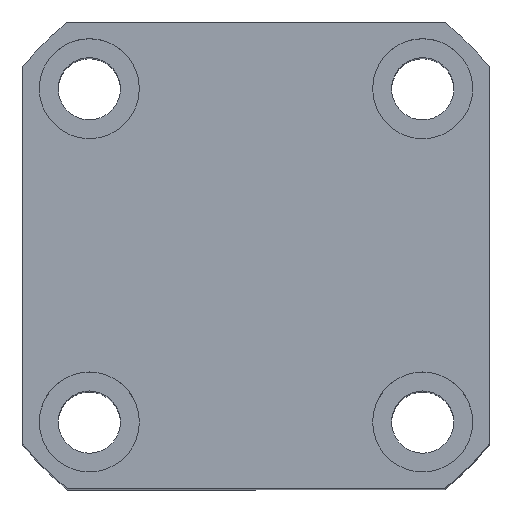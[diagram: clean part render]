
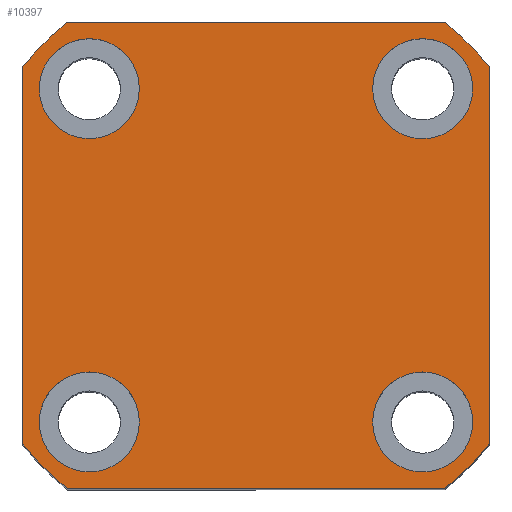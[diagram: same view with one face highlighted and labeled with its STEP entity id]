
A CAD part, top view. The second image highlights one B-rep face of the part: STEP entity #10397.
In plain terms, the highlighted planar face has unit normal (0, 0, 1).
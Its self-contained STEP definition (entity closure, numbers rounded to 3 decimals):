
#90 = ORIENTED_EDGE ( 'NONE', *, *, #7064, .T. ) ;
#200 = CARTESIAN_POINT ( 'NONE',  ( -19.5, 15.002, 68. ) ) ;
#310 = VECTOR ( 'NONE', #6324, 1000. ) ;
#335 = CIRCLE ( 'NONE', #1464, 4.5 ) ;
#363 = VERTEX_POINT ( 'NONE', #7510 ) ;
#420 = AXIS2_PLACEMENT_3D ( 'NONE', #8311, #3395, #9138 ) ;
#449 = VERTEX_POINT ( 'NONE', #2667 ) ;
#495 = DIRECTION ( 'NONE',  ( 0., 0., 1. ) ) ;
#571 = LINE ( 'NONE', #2296, #310 ) ;
#713 = ORIENTED_EDGE ( 'NONE', *, *, #4934, .F. ) ;
#815 = EDGE_CURVE ( 'NONE', #4348, #6737, #1002, .T. ) ;
#827 = DIRECTION ( 'NONE',  ( 0., 0., 1. ) ) ;
#849 = FACE_BOUND ( 'NONE', #10488, .T. ) ;
#1002 = CIRCLE ( 'NONE', #10078, 27. ) ;
#1144 = ORIENTED_EDGE ( 'NONE', *, *, #7272, .F. ) ;
#1157 = VERTEX_POINT ( 'NONE', #7560 ) ;
#1464 = AXIS2_PLACEMENT_3D ( 'NONE', #2484, #8226, #3313 ) ;
#1730 = CIRCLE ( 'NONE', #7197, 4.5 ) ;
#1737 = CARTESIAN_POINT ( 'NONE',  ( -15., 15.002, 68. ) ) ;
#1855 = CARTESIAN_POINT ( 'NONE',  ( -21., -21., 68. ) ) ;
#1884 = LINE ( 'NONE', #2199, #7910 ) ;
#1914 = CIRCLE ( 'NONE', #3521, 4.5 ) ;
#1959 = EDGE_LOOP ( 'NONE', ( #4172, #10352, #4619, #8376, #5886, #90, #3050, #3659 ) ) ;
#2145 = AXIS2_PLACEMENT_3D ( 'NONE', #7693, #2779, #8523 ) ;
#2199 = CARTESIAN_POINT ( 'NONE',  ( -21., 21., 68. ) ) ;
#2296 = CARTESIAN_POINT ( 'NONE',  ( -21., 21., 68. ) ) ;
#2334 = DIRECTION ( 'NONE',  ( 0., 0., 1. ) ) ;
#2484 = CARTESIAN_POINT ( 'NONE',  ( 15., -14.998, 68. ) ) ;
#2556 = DIRECTION ( 'NONE',  ( 1., 0., 0. ) ) ;
#2660 = AXIS2_PLACEMENT_3D ( 'NONE', #8322, #3406, #9147 ) ;
#2667 = CARTESIAN_POINT ( 'NONE',  ( 19.5, 15., 68. ) ) ;
#2671 = DIRECTION ( 'NONE',  ( 1., 0., 0. ) ) ;
#2717 = CARTESIAN_POINT ( 'NONE',  ( 0., 0., 68. ) ) ;
#2779 = DIRECTION ( 'NONE',  ( 0., 0., 1. ) ) ;
#2890 = CARTESIAN_POINT ( 'NONE',  ( -15., 15.002, 68. ) ) ;
#2897 = DIRECTION ( 'NONE',  ( 0., 0., 1. ) ) ;
#2968 = DIRECTION ( 'NONE',  ( 0., 0., 1. ) ) ;
#3024 = CARTESIAN_POINT ( 'NONE',  ( 21., 21., 68. ) ) ;
#3027 = FACE_BOUND ( 'NONE', #8950, .T. ) ;
#3050 = ORIENTED_EDGE ( 'NONE', *, *, #3335, .T. ) ;
#3147 = CARTESIAN_POINT ( 'NONE',  ( -21., -16.971, 68. ) ) ;
#3209 = CARTESIAN_POINT ( 'NONE',  ( -16.971, 21., 68. ) ) ;
#3313 = DIRECTION ( 'NONE',  ( 1., 0., 0. ) ) ;
#3335 = EDGE_CURVE ( 'NONE', #363, #1157, #7559, .T. ) ;
#3395 = DIRECTION ( 'NONE',  ( 0., 0., 1. ) ) ;
#3406 = DIRECTION ( 'NONE',  ( 0., 0., 1. ) ) ;
#3481 = CARTESIAN_POINT ( 'NONE',  ( -15., -14.998, 68. ) ) ;
#3521 = AXIS2_PLACEMENT_3D ( 'NONE', #1737, #7477, #2556 ) ;
#3616 = CARTESIAN_POINT ( 'NONE',  ( 16.971, 21., 68. ) ) ;
#3659 = ORIENTED_EDGE ( 'NONE', *, *, #3793, .T. ) ;
#3717 = DIRECTION ( 'NONE',  ( 1., 0., 0. ) ) ;
#3722 = EDGE_LOOP ( 'NONE', ( #1144, #10473 ) ) ;
#3793 = EDGE_CURVE ( 'NONE', #1157, #8818, #10113, .T. ) ;
#4172 = ORIENTED_EDGE ( 'NONE', *, *, #10611, .T. ) ;
#4281 = DIRECTION ( 'NONE',  ( 1., 0., 0. ) ) ;
#4290 = CIRCLE ( 'NONE', #4539, 4.5 ) ;
#4348 = VERTEX_POINT ( 'NONE', #8032 ) ;
#4357 = DIRECTION ( 'NONE',  ( 0., 0., 1. ) ) ;
#4409 = CARTESIAN_POINT ( 'NONE',  ( 0., 0., 68. ) ) ;
#4539 = AXIS2_PLACEMENT_3D ( 'NONE', #7800, #2897, #8635 ) ;
#4619 = ORIENTED_EDGE ( 'NONE', *, *, #7963, .T. ) ;
#4654 = DIRECTION ( 'NONE',  ( -1., 0., 0. ) ) ;
#4842 = CARTESIAN_POINT ( 'NONE',  ( 10.5, 15., 68. ) ) ;
#4934 = EDGE_CURVE ( 'NONE', #449, #8208, #10510, .T. ) ;
#5127 = VERTEX_POINT ( 'NONE', #7497 ) ;
#5372 = EDGE_LOOP ( 'NONE', ( #6645, #5612 ) ) ;
#5408 = CARTESIAN_POINT ( 'NONE',  ( 0., 0., 68. ) ) ;
#5461 = FACE_BOUND ( 'NONE', #5372, .T. ) ;
#5509 = VERTEX_POINT ( 'NONE', #6756 ) ;
#5612 = ORIENTED_EDGE ( 'NONE', *, *, #8276, .F. ) ;
#5735 = CARTESIAN_POINT ( 'NONE',  ( 15., 15., 68. ) ) ;
#5844 = LINE ( 'NONE', #3024, #10202 ) ;
#5886 = ORIENTED_EDGE ( 'NONE', *, *, #10014, .T. ) ;
#5944 = VERTEX_POINT ( 'NONE', #9261 ) ;
#6081 = DIRECTION ( 'NONE',  ( 1., 0., 0. ) ) ;
#6164 = CIRCLE ( 'NONE', #420, 27. ) ;
#6203 = VERTEX_POINT ( 'NONE', #3147 ) ;
#6239 = DIRECTION ( 'NONE',  ( 1., 0., 0. ) ) ;
#6324 = DIRECTION ( 'NONE',  ( 0., -1., 0. ) ) ;
#6549 = EDGE_CURVE ( 'NONE', #6695, #6623, #7186, .T. ) ;
#6560 = DIRECTION ( 'NONE',  ( 1., 0., 0. ) ) ;
#6623 = VERTEX_POINT ( 'NONE', #6815 ) ;
#6626 = CARTESIAN_POINT ( 'NONE',  ( 21., -16.971, 68. ) ) ;
#6645 = ORIENTED_EDGE ( 'NONE', *, *, #8916, .F. ) ;
#6695 = VERTEX_POINT ( 'NONE', #7703 ) ;
#6737 = VERTEX_POINT ( 'NONE', #3616 ) ;
#6756 = CARTESIAN_POINT ( 'NONE',  ( 19.5, -14.998, 68. ) ) ;
#6815 = CARTESIAN_POINT ( 'NONE',  ( -10.5, -14.998, 68. ) ) ;
#6986 = AXIS2_PLACEMENT_3D ( 'NONE', #2717, #4357, #10104 ) ;
#7054 = CIRCLE ( 'NONE', #7577, 4.5 ) ;
#7064 = EDGE_CURVE ( 'NONE', #6203, #363, #6164, .T. ) ;
#7160 = CARTESIAN_POINT ( 'NONE',  ( -21., 16.971, 68. ) ) ;
#7186 = CIRCLE ( 'NONE', #9551, 4.5 ) ;
#7197 = AXIS2_PLACEMENT_3D ( 'NONE', #5735, #827, #6560 ) ;
#7272 = EDGE_CURVE ( 'NONE', #5944, #10327, #7054, .T. ) ;
#7327 = ORIENTED_EDGE ( 'NONE', *, *, #7350, .F. ) ;
#7350 = EDGE_CURVE ( 'NONE', #6623, #6695, #8971, .T. ) ;
#7477 = DIRECTION ( 'NONE',  ( 0., 0., 1. ) ) ;
#7497 = CARTESIAN_POINT ( 'NONE',  ( 10.5, -14.998, 68. ) ) ;
#7510 = CARTESIAN_POINT ( 'NONE',  ( -16.971, -21., 68. ) ) ;
#7537 = EDGE_CURVE ( 'NONE', #10327, #5944, #1914, .T. ) ;
#7559 = LINE ( 'NONE', #1855, #9744 ) ;
#7560 = CARTESIAN_POINT ( 'NONE',  ( 16.971, -21., 68. ) ) ;
#7577 = AXIS2_PLACEMENT_3D ( 'NONE', #2890, #8628, #3717 ) ;
#7693 = CARTESIAN_POINT ( 'NONE',  ( 0., 0., 68. ) ) ;
#7703 = CARTESIAN_POINT ( 'NONE',  ( -19.5, -14.998, 68. ) ) ;
#7800 = CARTESIAN_POINT ( 'NONE',  ( 15., -14.998, 68. ) ) ;
#7873 = CARTESIAN_POINT ( 'NONE',  ( -15., -14.998, 68. ) ) ;
#7903 = FACE_BOUND ( 'NONE', #3722, .T. ) ;
#7910 = VECTOR ( 'NONE', #4654, 1000. ) ;
#7963 = EDGE_CURVE ( 'NONE', #6737, #9525, #1884, .T. ) ;
#8032 = CARTESIAN_POINT ( 'NONE',  ( 21., 16.971, 68. ) ) ;
#8208 = VERTEX_POINT ( 'NONE', #4842 ) ;
#8226 = DIRECTION ( 'NONE',  ( 0., 0., 1. ) ) ;
#8276 = EDGE_CURVE ( 'NONE', #5127, #5509, #335, .T. ) ;
#8311 = CARTESIAN_POINT ( 'NONE',  ( 0., 0., 68. ) ) ;
#8322 = CARTESIAN_POINT ( 'NONE',  ( 15., 15., 68. ) ) ;
#8376 = ORIENTED_EDGE ( 'NONE', *, *, #9033, .T. ) ;
#8423 = PLANE ( 'NONE',  #6986 ) ;
#8523 = DIRECTION ( 'NONE',  ( 1., 0., 0. ) ) ;
#8628 = DIRECTION ( 'NONE',  ( 0., 0., 1. ) ) ;
#8635 = DIRECTION ( 'NONE',  ( 1., 0., 0. ) ) ;
#8666 = AXIS2_PLACEMENT_3D ( 'NONE', #7873, #2968, #8695 ) ;
#8683 = DIRECTION ( 'NONE',  ( 0., 1., 0. ) ) ;
#8695 = DIRECTION ( 'NONE',  ( 1., 0., 0. ) ) ;
#8818 = VERTEX_POINT ( 'NONE', #6626 ) ;
#8916 = EDGE_CURVE ( 'NONE', #5509, #5127, #4290, .T. ) ;
#8950 = EDGE_LOOP ( 'NONE', ( #7327, #9667 ) ) ;
#8961 = ORIENTED_EDGE ( 'NONE', *, *, #10150, .F. ) ;
#8971 = CIRCLE ( 'NONE', #8666, 4.5 ) ;
#9033 = EDGE_CURVE ( 'NONE', #9525, #9389, #9831, .T. ) ;
#9138 = DIRECTION ( 'NONE',  ( 1., 0., 0. ) ) ;
#9147 = DIRECTION ( 'NONE',  ( 1., 0., 0. ) ) ;
#9216 = DIRECTION ( 'NONE',  ( 0., 0., 1. ) ) ;
#9261 = CARTESIAN_POINT ( 'NONE',  ( -10.5, 15.002, 68. ) ) ;
#9315 = FACE_OUTER_BOUND ( 'NONE', #1959, .T. ) ;
#9389 = VERTEX_POINT ( 'NONE', #7160 ) ;
#9460 = AXIS2_PLACEMENT_3D ( 'NONE', #5408, #495, #6239 ) ;
#9525 = VERTEX_POINT ( 'NONE', #3209 ) ;
#9551 = AXIS2_PLACEMENT_3D ( 'NONE', #3481, #9216, #4281 ) ;
#9667 = ORIENTED_EDGE ( 'NONE', *, *, #6549, .F. ) ;
#9744 = VECTOR ( 'NONE', #2671, 1000. ) ;
#9831 = CIRCLE ( 'NONE', #2145, 27. ) ;
#10014 = EDGE_CURVE ( 'NONE', #9389, #6203, #571, .T. ) ;
#10078 = AXIS2_PLACEMENT_3D ( 'NONE', #4409, #2334, #6081 ) ;
#10104 = DIRECTION ( 'NONE',  ( 1., 0., 0. ) ) ;
#10113 = CIRCLE ( 'NONE', #9460, 27. ) ;
#10150 = EDGE_CURVE ( 'NONE', #8208, #449, #1730, .T. ) ;
#10202 = VECTOR ( 'NONE', #8683, 1000. ) ;
#10327 = VERTEX_POINT ( 'NONE', #200 ) ;
#10352 = ORIENTED_EDGE ( 'NONE', *, *, #815, .T. ) ;
#10397 = ADVANCED_FACE ( 'NONE', ( #7903, #3027, #5461, #849, #9315 ), #8423, .T. ) ;
#10473 = ORIENTED_EDGE ( 'NONE', *, *, #7537, .F. ) ;
#10488 = EDGE_LOOP ( 'NONE', ( #713, #8961 ) ) ;
#10510 = CIRCLE ( 'NONE', #2660, 4.5 ) ;
#10611 = EDGE_CURVE ( 'NONE', #8818, #4348, #5844, .T. ) ;
